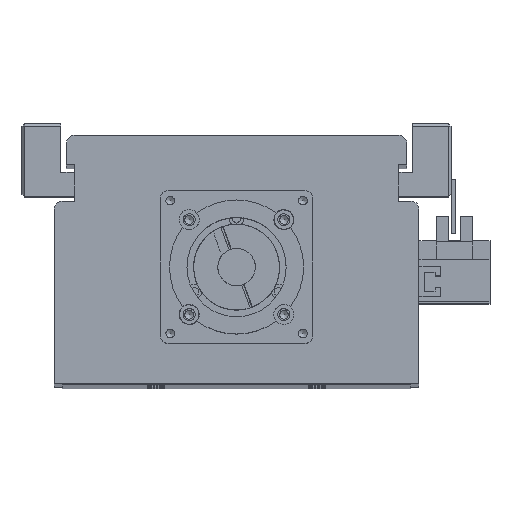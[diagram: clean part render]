
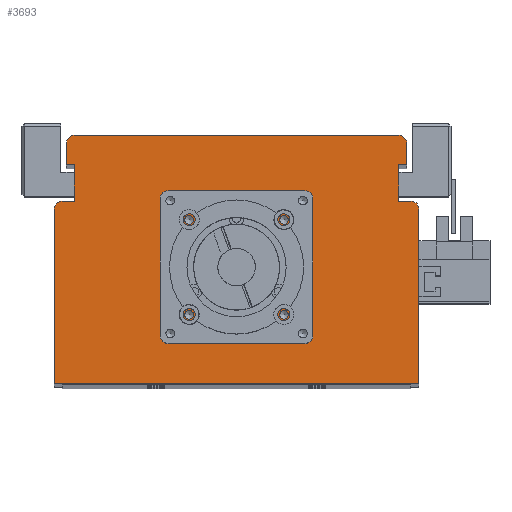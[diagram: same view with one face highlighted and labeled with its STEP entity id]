
A CAD part, top view. The second image highlights one B-rep face of the part: STEP entity #3693.
In plain terms, the highlighted planar face has unit normal (0, 0, 1).
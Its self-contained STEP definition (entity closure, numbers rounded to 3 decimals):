
#2251=CARTESIAN_POINT('',(19.321,61.5,795.));
#2252=VERTEX_POINT('',#2251);
#2253=CARTESIAN_POINT('',(17.7,61.5,795.));
#2254=DIRECTION('',(0.0,0.0,-1.0));
#2255=DIRECTION('',(1.0,0.0,0.0));
#2256=AXIS2_PLACEMENT_3D('',#2253,#2254,#2255);
#2257=CIRCLE('',#2256,1.621);
#2258=EDGE_CURVE('',#2252,#2252,#2257,.T.);
#2330=CARTESIAN_POINT('',(19.321,26.1,795.));
#2331=VERTEX_POINT('',#2330);
#2332=CARTESIAN_POINT('',(17.7,26.1,795.));
#2333=DIRECTION('',(0.0,0.0,-1.0));
#2334=DIRECTION('',(1.0,0.0,0.0));
#2335=AXIS2_PLACEMENT_3D('',#2332,#2333,#2334);
#2336=CIRCLE('',#2335,1.621);
#2337=EDGE_CURVE('',#2331,#2331,#2336,.T.);
#2409=CARTESIAN_POINT('',(-16.079,26.1,795.));
#2410=VERTEX_POINT('',#2409);
#2411=CARTESIAN_POINT('',(-17.7,26.1,795.));
#2412=DIRECTION('',(0.0,0.0,-1.0));
#2413=DIRECTION('',(1.0,0.0,0.0));
#2414=AXIS2_PLACEMENT_3D('',#2411,#2412,#2413);
#2415=CIRCLE('',#2414,1.621);
#2416=EDGE_CURVE('',#2410,#2410,#2415,.T.);
#2488=CARTESIAN_POINT('',(-16.079,61.5,795.));
#2489=VERTEX_POINT('',#2488);
#2490=CARTESIAN_POINT('',(-17.7,61.5,795.));
#2491=DIRECTION('',(0.0,0.0,-1.0));
#2492=DIRECTION('',(1.0,0.0,0.0));
#2493=AXIS2_PLACEMENT_3D('',#2490,#2491,#2492);
#2494=CIRCLE('',#2493,1.621);
#2495=EDGE_CURVE('',#2489,#2489,#2494,.T.);
#2529=CARTESIAN_POINT('',(26.5,43.8,795.));
#2530=VERTEX_POINT('',#2529);
#2531=CARTESIAN_POINT('',(24.5,43.8,795.));
#2532=DIRECTION('',(0.0,0.0,-1.0));
#2533=DIRECTION('',(1.0,0.0,0.0));
#2534=AXIS2_PLACEMENT_3D('',#2531,#2532,#2533);
#2535=CIRCLE('',#2534,2.0);
#2536=EDGE_CURVE('',#2530,#2530,#2535,.T.);
#2578=CARTESIAN_POINT('',(-22.5,43.8,795.));
#2579=VERTEX_POINT('',#2578);
#2580=CARTESIAN_POINT('',(-24.5,43.8,795.));
#2581=DIRECTION('',(0.0,0.0,-1.0));
#2582=DIRECTION('',(1.0,0.0,0.0));
#2583=AXIS2_PLACEMENT_3D('',#2580,#2581,#2582);
#2584=CIRCLE('',#2583,2.0);
#2585=EDGE_CURVE('',#2579,#2579,#2584,.T.);
#3509=CARTESIAN_POINT('',(21.05,43.8,795.));
#3510=VERTEX_POINT('',#3509);
#3511=CARTESIAN_POINT('',(0.0,43.8,795.));
#3512=DIRECTION('',(0.0,0.0,-1.0));
#3513=DIRECTION('',(-1.0,0.0,0.0));
#3514=AXIS2_PLACEMENT_3D('',#3511,#3512,#3513);
#3515=CIRCLE('',#3514,21.05);
#3516=EDGE_CURVE('',#3510,#3510,#3515,.T.);
#3533=CARTESIAN_POINT('',(0.,29.533,795.));
#3534=DIRECTION('',(0.0,0.0,1.0));
#3535=DIRECTION('',(1.0,0.0,0.0));
#3536=AXIS2_PLACEMENT_3D('',#3533,#3534,#3535);
#3537=PLANE('',#3536);
#3538=CARTESIAN_POINT('',(-65.,68.5,795.));
#3539=VERTEX_POINT('',#3538);
#3540=CARTESIAN_POINT('',(-60.5,68.5,795.0));
#3541=VERTEX_POINT('',#3540);
#3542=CARTESIAN_POINT('',(-65.,68.5,795.));
#3543=DIRECTION('',(1.0,0.0,0.0));
#3544=VECTOR('',#3543,4.5);
#3545=LINE('',#3542,#3544);
#3546=EDGE_CURVE('',#3539,#3541,#3545,.T.);
#3547=ORIENTED_EDGE('',*,*,#3546,.F.);
#3548=CARTESIAN_POINT('',(-68.,65.5,795.));
#3549=VERTEX_POINT('',#3548);
#3550=CARTESIAN_POINT('',(-65.,65.5,795.0));
#3551=DIRECTION('',(0.0,0.0,-1.0));
#3552=DIRECTION('',(0.0,1.0,0.0));
#3553=AXIS2_PLACEMENT_3D('',#3550,#3551,#3552);
#3554=CIRCLE('',#3553,3.);
#3555=EDGE_CURVE('',#3549,#3539,#3554,.T.);
#3556=ORIENTED_EDGE('',*,*,#3555,.F.);
#3557=CARTESIAN_POINT('',(-68.0,0.5,795.));
#3558=VERTEX_POINT('',#3557);
#3559=CARTESIAN_POINT('',(-68.0,0.5,795.));
#3560=DIRECTION('',(0.0,1.0,0.0));
#3561=VECTOR('',#3560,65.0);
#3562=LINE('',#3559,#3561);
#3563=EDGE_CURVE('',#3558,#3549,#3562,.T.);
#3564=ORIENTED_EDGE('',*,*,#3563,.F.);
#3565=CARTESIAN_POINT('',(68.0,0.5,795.));
#3566=VERTEX_POINT('',#3565);
#3567=CARTESIAN_POINT('',(68.0,0.5,795.));
#3568=DIRECTION('',(-1.0,0.0,0.0));
#3569=VECTOR('',#3568,136.0);
#3570=LINE('',#3567,#3569);
#3571=EDGE_CURVE('',#3566,#3558,#3570,.T.);
#3572=ORIENTED_EDGE('',*,*,#3571,.F.);
#3573=CARTESIAN_POINT('',(68.0,65.5,795.));
#3574=VERTEX_POINT('',#3573);
#3575=CARTESIAN_POINT('',(68.0,65.5,795.));
#3576=DIRECTION('',(0.0,-1.0,0.0));
#3577=VECTOR('',#3576,65.0);
#3578=LINE('',#3575,#3577);
#3579=EDGE_CURVE('',#3574,#3566,#3578,.T.);
#3580=ORIENTED_EDGE('',*,*,#3579,.F.);
#3581=CARTESIAN_POINT('',(65.,68.5,795.));
#3582=VERTEX_POINT('',#3581);
#3583=CARTESIAN_POINT('',(65.,65.5,795.0));
#3584=DIRECTION('',(0.0,0.0,-1.0));
#3585=DIRECTION('',(1.0,0.0,0.0));
#3586=AXIS2_PLACEMENT_3D('',#3583,#3584,#3585);
#3587=CIRCLE('',#3586,3.);
#3588=EDGE_CURVE('',#3582,#3574,#3587,.T.);
#3589=ORIENTED_EDGE('',*,*,#3588,.F.);
#3590=CARTESIAN_POINT('',(60.5,68.5,795.0));
#3591=VERTEX_POINT('',#3590);
#3592=CARTESIAN_POINT('',(60.5,68.5,795.0));
#3593=DIRECTION('',(1.0,0.0,0.0));
#3594=VECTOR('',#3593,4.5);
#3595=LINE('',#3592,#3594);
#3596=EDGE_CURVE('',#3591,#3582,#3595,.T.);
#3597=ORIENTED_EDGE('',*,*,#3596,.F.);
#3598=CARTESIAN_POINT('',(60.5,82.,795.));
#3599=VERTEX_POINT('',#3598);
#3600=CARTESIAN_POINT('',(60.5,82.,795.));
#3601=DIRECTION('',(0.0,-1.0,0.0));
#3602=VECTOR('',#3601,13.5);
#3603=LINE('',#3600,#3602);
#3604=EDGE_CURVE('',#3599,#3591,#3603,.T.);
#3605=ORIENTED_EDGE('',*,*,#3604,.F.);
#3606=CARTESIAN_POINT('',(63.5,82.,795.));
#3607=VERTEX_POINT('',#3606);
#3608=CARTESIAN_POINT('',(63.5,82.,795.));
#3609=DIRECTION('',(-1.0,0.0,0.0));
#3610=VECTOR('',#3609,3.0);
#3611=LINE('',#3608,#3610);
#3612=EDGE_CURVE('',#3607,#3599,#3611,.T.);
#3613=ORIENTED_EDGE('',*,*,#3612,.F.);
#3614=CARTESIAN_POINT('',(63.5,90.0,795.));
#3615=VERTEX_POINT('',#3614);
#3616=CARTESIAN_POINT('',(63.5,90.0,795.));
#3617=DIRECTION('',(0.0,-1.0,0.0));
#3618=VECTOR('',#3617,8.);
#3619=LINE('',#3616,#3618);
#3620=EDGE_CURVE('',#3615,#3607,#3619,.T.);
#3621=ORIENTED_EDGE('',*,*,#3620,.F.);
#3622=CARTESIAN_POINT('',(60.5,93.,795.));
#3623=VERTEX_POINT('',#3622);
#3624=CARTESIAN_POINT('',(60.5,90.0,795.0));
#3625=DIRECTION('',(0.0,0.0,-1.0));
#3626=DIRECTION('',(1.0,0.0,0.0));
#3627=AXIS2_PLACEMENT_3D('',#3624,#3625,#3626);
#3628=CIRCLE('',#3627,3.);
#3629=EDGE_CURVE('',#3623,#3615,#3628,.T.);
#3630=ORIENTED_EDGE('',*,*,#3629,.F.);
#3631=CARTESIAN_POINT('',(-60.5,93.0,795.));
#3632=VERTEX_POINT('',#3631);
#3633=CARTESIAN_POINT('',(-60.5,93.0,795.));
#3634=DIRECTION('',(1.0,0.0,0.0));
#3635=VECTOR('',#3634,121.0);
#3636=LINE('',#3633,#3635);
#3637=EDGE_CURVE('',#3632,#3623,#3636,.T.);
#3638=ORIENTED_EDGE('',*,*,#3637,.F.);
#3639=CARTESIAN_POINT('',(-63.5,90.0,795.));
#3640=VERTEX_POINT('',#3639);
#3641=CARTESIAN_POINT('',(-60.5,90.0,795.0));
#3642=DIRECTION('',(0.0,0.0,-1.0));
#3643=DIRECTION('',(0.0,1.0,0.0));
#3644=AXIS2_PLACEMENT_3D('',#3641,#3642,#3643);
#3645=CIRCLE('',#3644,3.);
#3646=EDGE_CURVE('',#3640,#3632,#3645,.T.);
#3647=ORIENTED_EDGE('',*,*,#3646,.F.);
#3648=CARTESIAN_POINT('',(-63.5,82.,795.));
#3649=VERTEX_POINT('',#3648);
#3650=CARTESIAN_POINT('',(-63.5,82.,795.));
#3651=DIRECTION('',(0.0,1.0,0.0));
#3652=VECTOR('',#3651,8.);
#3653=LINE('',#3650,#3652);
#3654=EDGE_CURVE('',#3649,#3640,#3653,.T.);
#3655=ORIENTED_EDGE('',*,*,#3654,.F.);
#3656=CARTESIAN_POINT('',(-60.5,82.,795.));
#3657=VERTEX_POINT('',#3656);
#3658=CARTESIAN_POINT('',(-60.5,82.,795.));
#3659=DIRECTION('',(-1.0,0.0,0.0));
#3660=VECTOR('',#3659,3.);
#3661=LINE('',#3658,#3660);
#3662=EDGE_CURVE('',#3657,#3649,#3661,.T.);
#3663=ORIENTED_EDGE('',*,*,#3662,.F.);
#3664=CARTESIAN_POINT('',(-60.5,68.5,795.0));
#3665=DIRECTION('',(0.0,1.0,0.0));
#3666=VECTOR('',#3665,13.5);
#3667=LINE('',#3664,#3666);
#3668=EDGE_CURVE('',#3541,#3657,#3667,.T.);
#3669=ORIENTED_EDGE('',*,*,#3668,.F.);
#3670=EDGE_LOOP('',(#3547,#3556,#3564,#3572,#3580,#3589,#3597,#3605,#3613,#3621,#3630,#3638,#3647,#3655,#3663,#3669));
#3671=FACE_OUTER_BOUND('',#3670,.T.);
#3672=ORIENTED_EDGE('',*,*,#2258,.T.);
#3673=EDGE_LOOP('',(#3672));
#3674=FACE_BOUND('',#3673,.T.);
#3675=ORIENTED_EDGE('',*,*,#2337,.T.);
#3676=EDGE_LOOP('',(#3675));
#3677=FACE_BOUND('',#3676,.T.);
#3678=ORIENTED_EDGE('',*,*,#2416,.T.);
#3679=EDGE_LOOP('',(#3678));
#3680=FACE_BOUND('',#3679,.T.);
#3681=ORIENTED_EDGE('',*,*,#2495,.T.);
#3682=EDGE_LOOP('',(#3681));
#3683=FACE_BOUND('',#3682,.T.);
#3684=ORIENTED_EDGE('',*,*,#2536,.T.);
#3685=EDGE_LOOP('',(#3684));
#3686=FACE_BOUND('',#3685,.T.);
#3687=ORIENTED_EDGE('',*,*,#2585,.T.);
#3688=EDGE_LOOP('',(#3687));
#3689=FACE_BOUND('',#3688,.T.);
#3690=ORIENTED_EDGE('',*,*,#3516,.T.);
#3691=EDGE_LOOP('',(#3690));
#3692=FACE_BOUND('',#3691,.T.);
#3693=ADVANCED_FACE('',(#3671,#3674,#3677,#3680,#3683,#3686,#3689,#3692),#3537,.T.);
